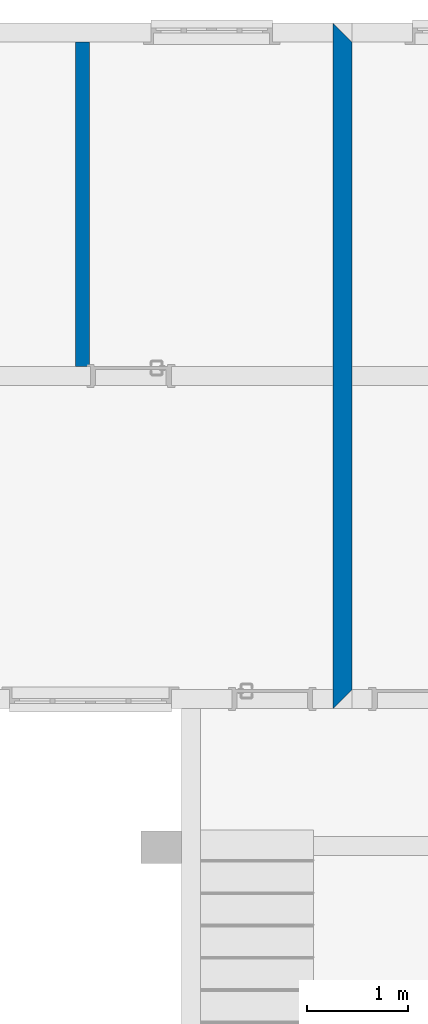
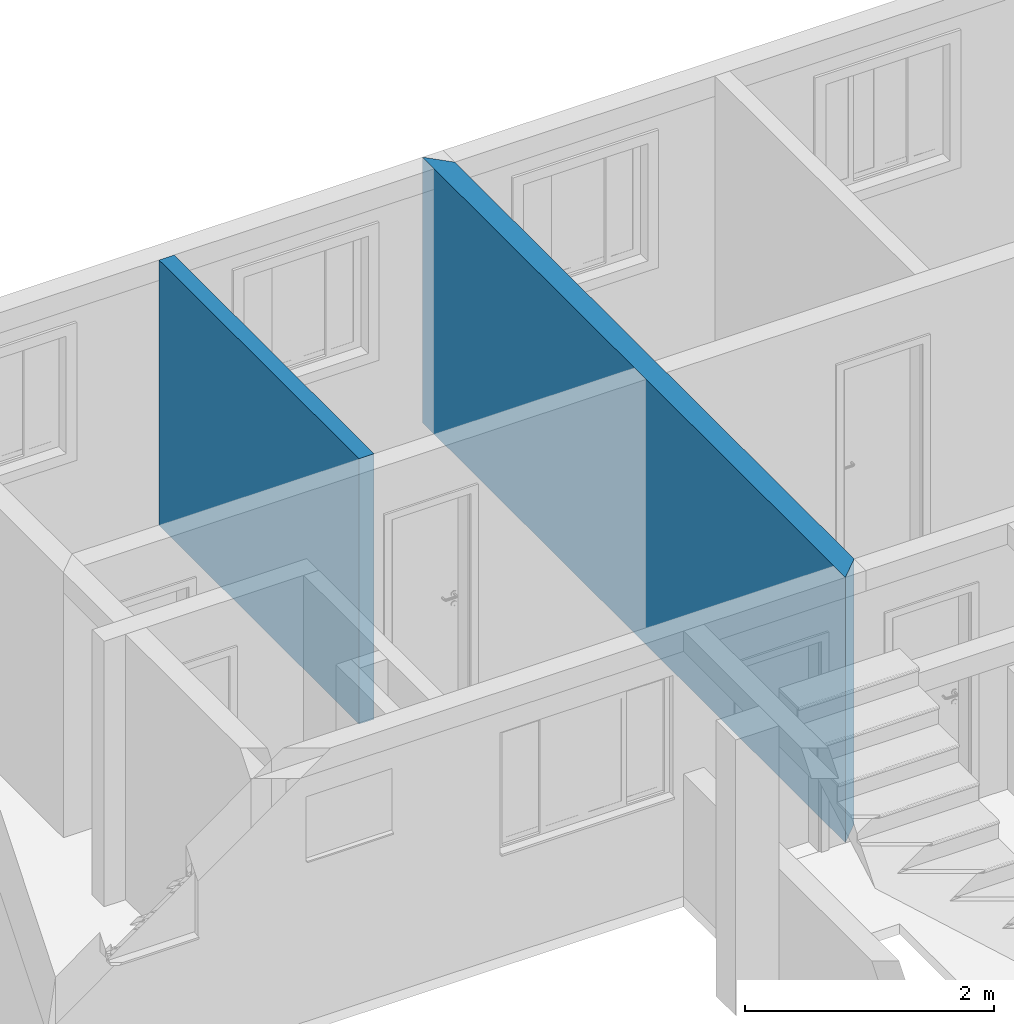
# One storey, part 36 of 47: 2 walls.
"""IFC2X3 building model written with IfcOpenShell, lengths in millimetres."""

from ifc_helpers import new_model, entity, si_unit, converted_unit, derived_unit, money_unit, direction, frame, origin_with_axes, place, context, subcontext, project, spatial, polyline, outline, extrude, material, layer, layer_set, layer_usage, type_object, element, save


model = new_model("IFC2X3")

# Units and contexts
model_context = context("Model", 3, precision=0.01, world=origin_with_axes(), true_north=direction((0.0, 1.0)))
body_context = subcontext(model_context, "Body", "Model", "MODEL_VIEW")
ifc_project = project(units=[si_unit("LENGTHUNIT", "METRE", prefix="MILLI"), si_unit("AREAUNIT", "SQUARE_METRE"), si_unit("VOLUMEUNIT", "CUBIC_METRE"), converted_unit("PLANEANGLEUNIT", "DEGREE", entity("IfcPlaneAngleMeasure", 0.0174532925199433), si_unit("PLANEANGLEUNIT", "RADIAN"), dimensions=[0, 0, 0, 0, 0, 0, 0]), money_unit("USD"), converted_unit("TIMEUNIT", "Year", entity("IfcTimeMeasure", 31557600.0), si_unit("TIMEUNIT", "SECOND"), dimensions=[0, 0, 1, 0, 0, 0, 0]), si_unit("MASSUNIT", "GRAM", prefix="KILO"), si_unit("THERMODYNAMICTEMPERATUREUNIT", "DEGREE_CELSIUS"), si_unit("LUMINOUSINTENSITYUNIT", "LUMEN"), si_unit("ENERGYUNIT", "JOULE", prefix="MEGA"), derived_unit("THERMALCONDUCTANCEUNIT", [(si_unit("POWERUNIT", "WATT"), 1), (si_unit("LENGTHUNIT", "METRE"), -1), (si_unit("THERMODYNAMICTEMPERATUREUNIT", "KELVIN"), -1)]), derived_unit("SPECIFICHEATCAPACITYUNIT", [(si_unit("ENERGYUNIT", "JOULE"), 1), (si_unit("MASSUNIT", "GRAM", prefix="KILO"), -1), (si_unit("THERMODYNAMICTEMPERATUREUNIT", "KELVIN"), -1)]), derived_unit("MASSDENSITYUNIT", [(si_unit("MASSUNIT", "GRAM", prefix="KILO"), 1), (si_unit("VOLUMEUNIT", "CUBIC_METRE"), -1)])], contexts=[model_context])

# Site, building, storey
site_placement = place(None, origin_with_axes())
site = spatial("IfcSite", under=ifc_project, at=site_placement, Name="Local", CompositionType="ELEMENT")
building_placement = place(site_placement, origin_with_axes())
building = spatial("IfcBuilding", under=site, at=building_placement, Name="Construção", CompositionType="ELEMENT")
storey_placement = place(building_placement, origin_with_axes())
storey = spatial("IfcBuildingStorey", under=building, at=storey_placement, Name="Pavimento Tipo", CompositionType="ELEMENT", Elevation=0.0)

# Walls
ifc_material_1 = material(Name="Concreto - Estrutural")
ifc_layer_1 = layer(ifc_material_1, 190.0, ventilated="UNKNOWN")
ifc_layer_set_1 = layer_set([ifc_layer_1], Name="Concreto - Estrutural 190")
ifc_layer_usage_1 = layer_usage(ifc_layer_set_1, "AXIS2", "NEGATIVE", 0.0)
wall_type_1 = type_object("IfcWallType", Name="Concreto - Estrutural 190", PredefinedType="NOTDEFINED")
wall_1_placement = place(storey_placement, frame((1042.56699750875, 19186.98141771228, 0.0), z_axis=(0.0, 0.0, 1.0), x_axis=(0.0, -1.0, 0.0)))
element("IfcWallStandardCase", 1, at=wall_1_placement, inside=storey, type_object=wall_type_1, material=ifc_layer_usage_1, Name="Apartamentos 1 e 2 - Parede-002", context=body_context, shape_type="SweptSolid", body=[
    extrude(outline(polyline([(0.0, -189.9999999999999), (6789.999999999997, -189.9999999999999), (6599.999999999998, 0.0), (190.0000000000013, 0.0), (0.0, -189.9999999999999)])), origin_with_axes(), (0.0, 0.0, 1.0), 2600.000000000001),
])
ifc_material_2 = material(Name="Concreto")
ifc_layer_2 = layer(ifc_material_2, 140.0, ventilated="UNKNOWN")
ifc_layer_set_2 = layer_set([ifc_layer_2], Name="Concreto 140")
ifc_layer_usage_2 = layer_usage(ifc_layer_set_2, "AXIS2", "POSITIVE", 0.0)
wall_type_2 = type_object("IfcWallType", Name="Concreto 140", PredefinedType="NOTDEFINED")
wall_2_placement = place(storey_placement, frame((-1557.433002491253, 15596.98141771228, 0.0), z_axis=(0.0, 0.0, 1.0), x_axis=(0.0, 1.0, 0.0)))
element("IfcWallStandardCase", 2, at=wall_2_placement, inside=storey, type_object=wall_type_2, material=ifc_layer_usage_2, Name="Apartamento 2 - Parede-085", context=body_context, shape_type="SweptSolid", body=[
    extrude(outline(polyline([(189.9999999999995, 0.0), (3399.999999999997, 0.0), (3399.999999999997, 140.0000000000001), (189.9999999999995, 140.0000000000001), (189.9999999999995, 0.0)])), origin_with_axes(), (0.0, 0.0, 1.0), 2600.0),
])

save(model, "model.ifc")
